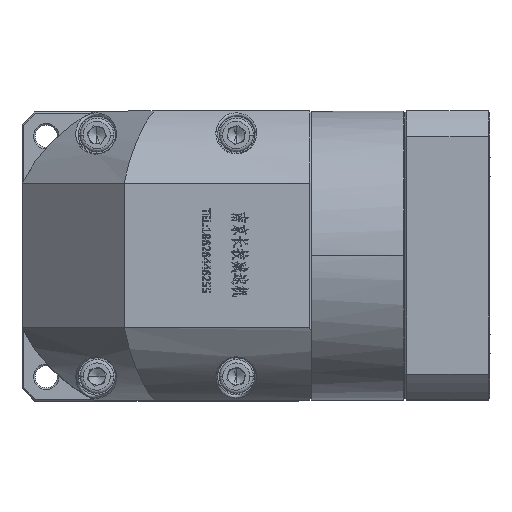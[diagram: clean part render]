
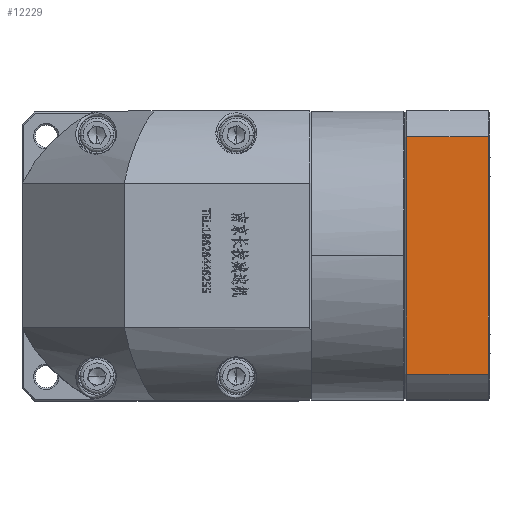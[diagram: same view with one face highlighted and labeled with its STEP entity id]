
A CAD part, top view. The second image highlights one B-rep face of the part: STEP entity #12229.
In plain terms, the highlighted planar face has unit normal (0, 0, 1).
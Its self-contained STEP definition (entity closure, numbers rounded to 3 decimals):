
#2550 = FACE_OUTER_BOUND ( 'NONE', #6222, .T. ) ;
#6222 = EDGE_LOOP ( 'NONE', ( #135195, #98974, #120457, #116313 ) ) ;
#9620 = EDGE_CURVE ( 'NONE', #27307, #46157, #104707, .T. ) ;
#12229 = ADVANCED_FACE ( 'NONE', ( #2550 ), #91358, .F. ) ;
#15245 = DIRECTION ( 'NONE',  ( 0., -1., 0. ) ) ;
#18539 = DIRECTION ( 'NONE',  ( 0., -1., 0. ) ) ;
#27307 = VERTEX_POINT ( 'NONE', #54574 ) ;
#28262 = LINE ( 'NONE', #161656, #56087 ) ;
#37267 = VECTOR ( 'NONE', #15245, 1000. ) ;
#46157 = VERTEX_POINT ( 'NONE', #169153 ) ;
#54574 = CARTESIAN_POINT ( 'NONE',  ( 98.709, 115.866, 38.162 ) ) ;
#56087 = VECTOR ( 'NONE', #177230, 1000. ) ;
#56382 = VERTEX_POINT ( 'NONE', #61779 ) ;
#56946 = CARTESIAN_POINT ( 'NONE',  ( 98.709, 185.687, 38.162 ) ) ;
#61779 = CARTESIAN_POINT ( 'NONE',  ( 74.709, 185.687, 38.162 ) ) ;
#64354 = DIRECTION ( 'NONE',  ( 0., 0., -1. ) ) ;
#69682 = VECTOR ( 'NONE', #18539, 1000. ) ;
#70660 = DIRECTION ( 'NONE',  ( -1., 0., 0. ) ) ;
#91358 = PLANE ( 'NONE',  #133690 ) ;
#97190 = CARTESIAN_POINT ( 'NONE',  ( 98.709, 115.866, 38.162 ) ) ;
#98974 = ORIENTED_EDGE ( 'NONE', *, *, #148367, .F. ) ;
#104707 = LINE ( 'NONE', #166495, #173236 ) ;
#116313 = ORIENTED_EDGE ( 'NONE', *, *, #9620, .F. ) ;
#120457 = ORIENTED_EDGE ( 'NONE', *, *, #176441, .T. ) ;
#127395 = CARTESIAN_POINT ( 'NONE',  ( 74.709, 115.866, 38.162 ) ) ;
#133690 = AXIS2_PLACEMENT_3D ( 'NONE', #146390, #64354, #160166 ) ;
#135195 = ORIENTED_EDGE ( 'NONE', *, *, #145119, .F. ) ;
#142160 = LINE ( 'NONE', #97190, #37267 ) ;
#142491 = LINE ( 'NONE', #127395, #69682 ) ;
#145119 = EDGE_CURVE ( 'NONE', #154987, #27307, #142160, .T. ) ;
#146390 = CARTESIAN_POINT ( 'NONE',  ( 99.209, 115.866, 38.162 ) ) ;
#148367 = EDGE_CURVE ( 'NONE', #56382, #154987, #28262, .T. ) ;
#154987 = VERTEX_POINT ( 'NONE', #56946 ) ;
#160166 = DIRECTION ( 'NONE',  ( -1., 0., 0. ) ) ;
#161656 = CARTESIAN_POINT ( 'NONE',  ( 99.209, 185.687, 38.162 ) ) ;
#166495 = CARTESIAN_POINT ( 'NONE',  ( 99.209, 115.866, 38.162 ) ) ;
#169153 = CARTESIAN_POINT ( 'NONE',  ( 74.709, 115.866, 38.162 ) ) ;
#173236 = VECTOR ( 'NONE', #70660, 1000. ) ;
#176441 = EDGE_CURVE ( 'NONE', #56382, #46157, #142491, .T. ) ;
#177230 = DIRECTION ( 'NONE',  ( 1., 0., 0. ) ) ;
